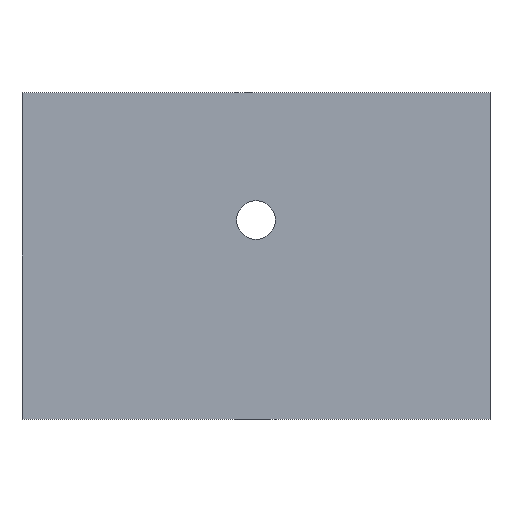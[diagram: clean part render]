
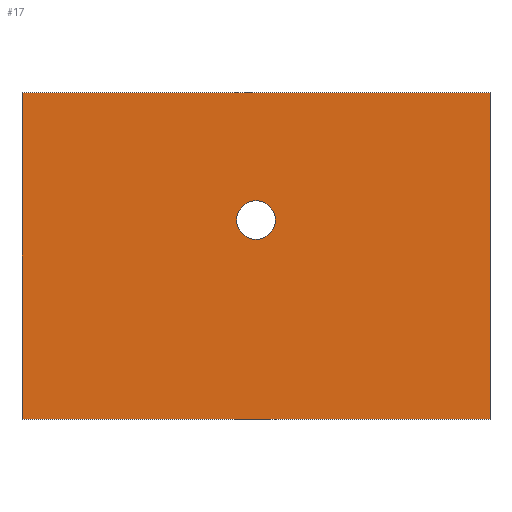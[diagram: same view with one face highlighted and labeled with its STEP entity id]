
A CAD part, left-side view. The second image highlights one B-rep face of the part: STEP entity #17.
In plain terms, the highlighted planar face has unit normal (-1, 0, 0).
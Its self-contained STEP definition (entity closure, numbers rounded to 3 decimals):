
#17 = ADVANCED_FACE('',(#18,#137),#32,.F.);
#18 = FACE_BOUND('',#19,.F.);
#19 = EDGE_LOOP('',(#20,#55,#83,#111));
#20 = ORIENTED_EDGE('',*,*,#21,.F.);
#21 = EDGE_CURVE('',#22,#24,#26,.T.);
#22 = VERTEX_POINT('',#23);
#23 = CARTESIAN_POINT('',(0.,-26.045,0.));
#24 = VERTEX_POINT('',#25);
#25 = CARTESIAN_POINT('',(0.,-26.045,36.3));
#26 = SURFACE_CURVE('',#27,(#31,#43),.PCURVE_S1.);
#27 = LINE('',#28,#29);
#28 = CARTESIAN_POINT('',(0.,-26.045,0.));
#29 = VECTOR('',#30,1.);
#30 = DIRECTION('',(0.,0.,1.));
#31 = PCURVE('',#32,#37);
#32 = PLANE('',#33);
#33 = AXIS2_PLACEMENT_3D('',#34,#35,#36);
#34 = CARTESIAN_POINT('',(0.,-26.045,0.));
#35 = DIRECTION('',(1.,0.,0.));
#36 = DIRECTION('',(0.,0.,1.));
#37 = DEFINITIONAL_REPRESENTATION('',(#38),#42);
#38 = LINE('',#39,#40);
#39 = CARTESIAN_POINT('',(0.,0.));
#40 = VECTOR('',#41,1.);
#41 = DIRECTION('',(1.,0.));
#42 = ( GEOMETRIC_REPRESENTATION_CONTEXT(2) 
PARAMETRIC_REPRESENTATION_CONTEXT() REPRESENTATION_CONTEXT('2D SPACE',''
  ) );
#43 = PCURVE('',#44,#49);
#44 = PLANE('',#45);
#45 = AXIS2_PLACEMENT_3D('',#46,#47,#48);
#46 = CARTESIAN_POINT('',(0.,-26.045,0.));
#47 = DIRECTION('',(0.,1.,0.));
#48 = DIRECTION('',(0.,0.,1.));
#49 = DEFINITIONAL_REPRESENTATION('',(#50),#54);
#50 = LINE('',#51,#52);
#51 = CARTESIAN_POINT('',(0.,0.));
#52 = VECTOR('',#53,1.);
#53 = DIRECTION('',(1.,0.));
#54 = ( GEOMETRIC_REPRESENTATION_CONTEXT(2) 
PARAMETRIC_REPRESENTATION_CONTEXT() REPRESENTATION_CONTEXT('2D SPACE',''
  ) );
#55 = ORIENTED_EDGE('',*,*,#56,.T.);
#56 = EDGE_CURVE('',#22,#57,#59,.T.);
#57 = VERTEX_POINT('',#58);
#58 = CARTESIAN_POINT('',(0.,26.045,0.));
#59 = SURFACE_CURVE('',#60,(#64,#71),.PCURVE_S1.);
#60 = LINE('',#61,#62);
#61 = CARTESIAN_POINT('',(0.,-26.045,0.));
#62 = VECTOR('',#63,1.);
#63 = DIRECTION('',(0.,1.,0.));
#64 = PCURVE('',#32,#65);
#65 = DEFINITIONAL_REPRESENTATION('',(#66),#70);
#66 = LINE('',#67,#68);
#67 = CARTESIAN_POINT('',(0.,0.));
#68 = VECTOR('',#69,1.);
#69 = DIRECTION('',(0.,-1.));
#70 = ( GEOMETRIC_REPRESENTATION_CONTEXT(2) 
PARAMETRIC_REPRESENTATION_CONTEXT() REPRESENTATION_CONTEXT('2D SPACE',''
  ) );
#71 = PCURVE('',#72,#77);
#72 = PLANE('',#73);
#73 = AXIS2_PLACEMENT_3D('',#74,#75,#76);
#74 = CARTESIAN_POINT('',(0.,-26.045,0.));
#75 = DIRECTION('',(0.,0.,1.));
#76 = DIRECTION('',(1.,0.,0.));
#77 = DEFINITIONAL_REPRESENTATION('',(#78),#82);
#78 = LINE('',#79,#80);
#79 = CARTESIAN_POINT('',(0.,0.));
#80 = VECTOR('',#81,1.);
#81 = DIRECTION('',(0.,1.));
#82 = ( GEOMETRIC_REPRESENTATION_CONTEXT(2) 
PARAMETRIC_REPRESENTATION_CONTEXT() REPRESENTATION_CONTEXT('2D SPACE',''
  ) );
#83 = ORIENTED_EDGE('',*,*,#84,.F.);
#84 = EDGE_CURVE('',#85,#57,#87,.T.);
#85 = VERTEX_POINT('',#86);
#86 = CARTESIAN_POINT('',(0.,26.045,36.3));
#87 = SURFACE_CURVE('',#88,(#92,#99),.PCURVE_S1.);
#88 = LINE('',#89,#90);
#89 = CARTESIAN_POINT('',(0.,26.045,36.3));
#90 = VECTOR('',#91,1.);
#91 = DIRECTION('',(0.,0.,-1.));
#92 = PCURVE('',#32,#93);
#93 = DEFINITIONAL_REPRESENTATION('',(#94),#98);
#94 = LINE('',#95,#96);
#95 = CARTESIAN_POINT('',(36.3,-52.09));
#96 = VECTOR('',#97,1.);
#97 = DIRECTION('',(-1.,0.));
#98 = ( GEOMETRIC_REPRESENTATION_CONTEXT(2) 
PARAMETRIC_REPRESENTATION_CONTEXT() REPRESENTATION_CONTEXT('2D SPACE',''
  ) );
#99 = PCURVE('',#100,#105);
#100 = PLANE('',#101);
#101 = AXIS2_PLACEMENT_3D('',#102,#103,#104);
#102 = CARTESIAN_POINT('',(0.,26.045,0.));
#103 = DIRECTION('',(0.,1.,0.));
#104 = DIRECTION('',(0.,0.,1.));
#105 = DEFINITIONAL_REPRESENTATION('',(#106),#110);
#106 = LINE('',#107,#108);
#107 = CARTESIAN_POINT('',(36.3,0.));
#108 = VECTOR('',#109,1.);
#109 = DIRECTION('',(-1.,0.));
#110 = ( GEOMETRIC_REPRESENTATION_CONTEXT(2) 
PARAMETRIC_REPRESENTATION_CONTEXT() REPRESENTATION_CONTEXT('2D SPACE',''
  ) );
#111 = ORIENTED_EDGE('',*,*,#112,.F.);
#112 = EDGE_CURVE('',#24,#85,#113,.T.);
#113 = SURFACE_CURVE('',#114,(#118,#125),.PCURVE_S1.);
#114 = LINE('',#115,#116);
#115 = CARTESIAN_POINT('',(0.,-26.045,36.3));
#116 = VECTOR('',#117,1.);
#117 = DIRECTION('',(0.,1.,0.));
#118 = PCURVE('',#32,#119);
#119 = DEFINITIONAL_REPRESENTATION('',(#120),#124);
#120 = LINE('',#121,#122);
#121 = CARTESIAN_POINT('',(36.3,0.));
#122 = VECTOR('',#123,1.);
#123 = DIRECTION('',(0.,-1.));
#124 = ( GEOMETRIC_REPRESENTATION_CONTEXT(2) 
PARAMETRIC_REPRESENTATION_CONTEXT() REPRESENTATION_CONTEXT('2D SPACE',''
  ) );
#125 = PCURVE('',#126,#131);
#126 = PLANE('',#127);
#127 = AXIS2_PLACEMENT_3D('',#128,#129,#130);
#128 = CARTESIAN_POINT('',(0.,-26.045,36.3));
#129 = DIRECTION('',(0.,0.,1.));
#130 = DIRECTION('',(1.,0.,0.));
#131 = DEFINITIONAL_REPRESENTATION('',(#132),#136);
#132 = LINE('',#133,#134);
#133 = CARTESIAN_POINT('',(0.,0.));
#134 = VECTOR('',#135,1.);
#135 = DIRECTION('',(0.,1.));
#136 = ( GEOMETRIC_REPRESENTATION_CONTEXT(2) 
PARAMETRIC_REPRESENTATION_CONTEXT() REPRESENTATION_CONTEXT('2D SPACE',''
  ) );
#137 = FACE_BOUND('',#138,.F.);
#138 = EDGE_LOOP('',(#139));
#139 = ORIENTED_EDGE('',*,*,#140,.F.);
#140 = EDGE_CURVE('',#141,#141,#143,.T.);
#141 = VERTEX_POINT('',#142);
#142 = CARTESIAN_POINT('',(-0.,2.15,22.15));
#143 = SURFACE_CURVE('',#144,(#149,#156),.PCURVE_S1.);
#144 = CIRCLE('',#145,2.15);
#145 = AXIS2_PLACEMENT_3D('',#146,#147,#148);
#146 = CARTESIAN_POINT('',(0.,0.,22.15));
#147 = DIRECTION('',(1.,0.,0.));
#148 = DIRECTION('',(0.,1.,0.));
#149 = PCURVE('',#32,#150);
#150 = DEFINITIONAL_REPRESENTATION('',(#151),#155);
#151 = CIRCLE('',#152,2.15);
#152 = AXIS2_PLACEMENT_2D('',#153,#154);
#153 = CARTESIAN_POINT('',(22.15,-26.045));
#154 = DIRECTION('',(0.,-1.));
#155 = ( GEOMETRIC_REPRESENTATION_CONTEXT(2) 
PARAMETRIC_REPRESENTATION_CONTEXT() REPRESENTATION_CONTEXT('2D SPACE',''
  ) );
#156 = PCURVE('',#157,#162);
#157 = CYLINDRICAL_SURFACE('',#158,2.15);
#158 = AXIS2_PLACEMENT_3D('',#159,#160,#161);
#159 = CARTESIAN_POINT('',(0.,0.,22.15));
#160 = DIRECTION('',(1.,0.,0.));
#161 = DIRECTION('',(0.,1.,0.));
#162 = DEFINITIONAL_REPRESENTATION('',(#163),#167);
#163 = LINE('',#164,#165);
#164 = CARTESIAN_POINT('',(0.,0.));
#165 = VECTOR('',#166,1.);
#166 = DIRECTION('',(1.,0.));
#167 = ( GEOMETRIC_REPRESENTATION_CONTEXT(2) 
PARAMETRIC_REPRESENTATION_CONTEXT() REPRESENTATION_CONTEXT('2D SPACE',''
  ) );
